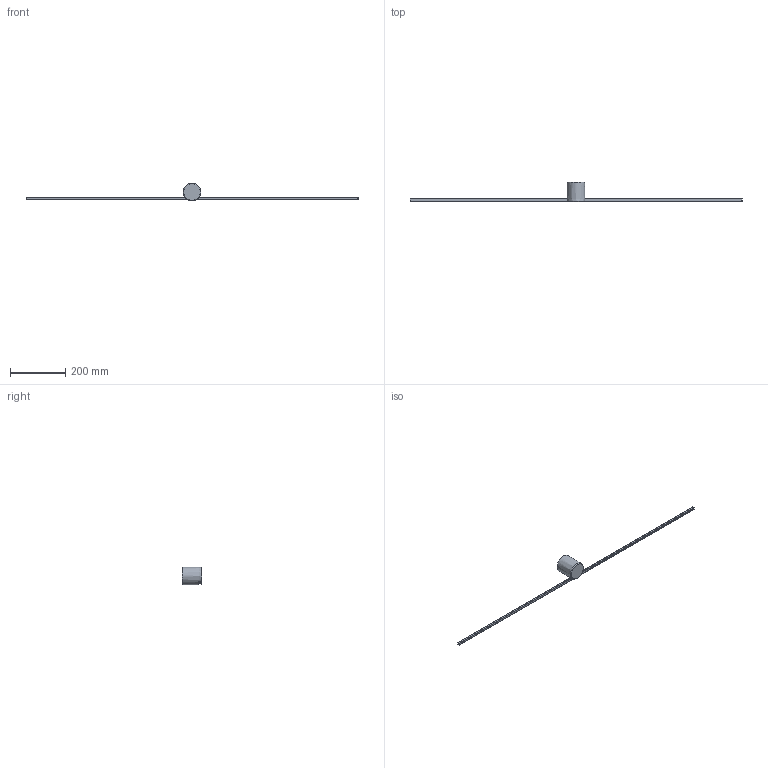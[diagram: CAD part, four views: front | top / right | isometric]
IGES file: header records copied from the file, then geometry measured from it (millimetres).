
Start section: SolidWorks IGES file using analytic representation for surfaces
Global section: file name: X:\PRODUKT\Modele 3D_WWW\_KOLEKCJE WWW\PIN-LED\PIN-LED-L-8130\PIN-LED-L-8130.IGS; native system: SolidWorks 2021; preprocessor: SolidWorks 2021; author: gabriela.tworek; date: 221219.120139; units: millimetre
Bounding box: 1199.2 x 72 x 64 mm (x, y, z)
Surface area: 109437.9 mm2 (no closed solid volume)
Topology: 0 solids, 0 shells, 57 faces, 300 edges, 298 vertices
Faces by surface type: bspline 55, revolution 2
